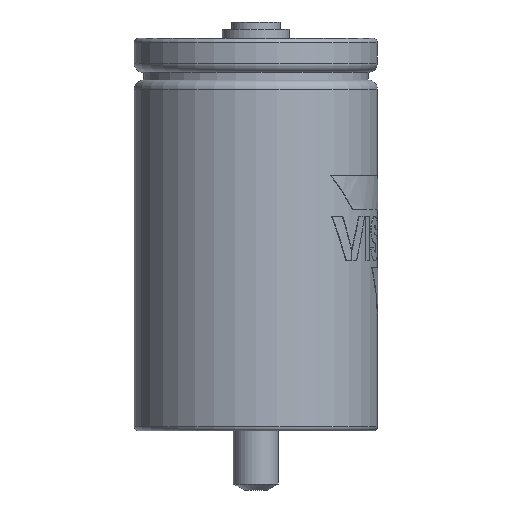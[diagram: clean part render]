
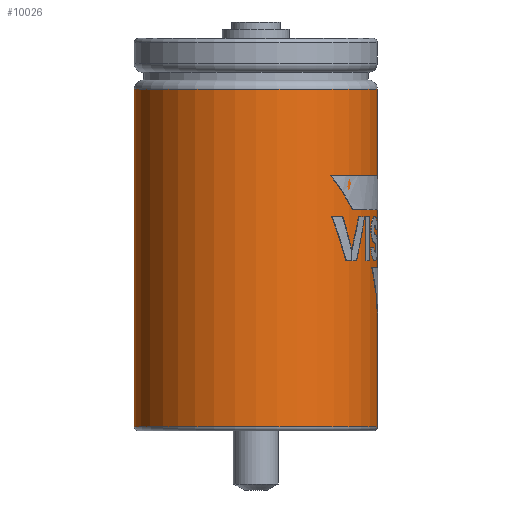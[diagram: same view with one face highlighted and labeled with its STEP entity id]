
A CAD part, left-side view. The second image highlights one B-rep face of the part: STEP entity #10026.
In plain terms, the highlighted cylindrical face has radius 32.5 mm (diameter 65 mm), a full revolution.
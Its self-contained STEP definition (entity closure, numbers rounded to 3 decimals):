
#9959 = TOROIDAL_SURFACE('',#9960,31.4,1.1);
#9960 = AXIS2_PLACEMENT_3D('',#9961,#9962,#9963);
#9961 = CARTESIAN_POINT('',(0.,0.,-102.6));
#9962 = DIRECTION('',(0.,0.,1.));
#9963 = DIRECTION('',(1.,0.,0.));
#9976 = VERTEX_POINT('',#9977);
#9977 = CARTESIAN_POINT('',(32.5,0.,-102.6));
#9999 = EDGE_CURVE('',#9976,#9976,#10000,.T.);
#10000 = SURFACE_CURVE('',#10001,(#10006,#10013),.PCURVE_S1.);
#10001 = CIRCLE('',#10002,32.5);
#10002 = AXIS2_PLACEMENT_3D('',#10003,#10004,#10005);
#10003 = CARTESIAN_POINT('',(0.,0.,-102.6));
#10004 = DIRECTION('',(0.,-0.,1.));
#10005 = DIRECTION('',(1.,0.,0.));
#10006 = PCURVE('',#9959,#10007);
#10007 = DEFINITIONAL_REPRESENTATION('',(#10008),#10012);
#10008 = LINE('',#10009,#10010);
#10009 = CARTESIAN_POINT('',(0.,6.283));
#10010 = VECTOR('',#10011,1.);
#10011 = DIRECTION('',(1.,0.));
#10012 = ( GEOMETRIC_REPRESENTATION_CONTEXT(2) 
PARAMETRIC_REPRESENTATION_CONTEXT() REPRESENTATION_CONTEXT('2D SPACE',''
  ) );
#10013 = PCURVE('',#10014,#10019);
#10014 = CYLINDRICAL_SURFACE('',#10015,32.5);
#10015 = AXIS2_PLACEMENT_3D('',#10016,#10017,#10018);
#10016 = CARTESIAN_POINT('',(0.,0.,-102.6));
#10017 = DIRECTION('',(0.,0.,1.));
#10018 = DIRECTION('',(1.,0.,0.));
#10019 = DEFINITIONAL_REPRESENTATION('',(#10020),#10024);
#10020 = LINE('',#10021,#10022);
#10021 = CARTESIAN_POINT('',(0.,0.));
#10022 = VECTOR('',#10023,1.);
#10023 = DIRECTION('',(1.,0.));
#10024 = ( GEOMETRIC_REPRESENTATION_CONTEXT(2) 
PARAMETRIC_REPRESENTATION_CONTEXT() REPRESENTATION_CONTEXT('2D SPACE',''
  ) );
#10026 = ADVANCED_FACE('',(#10027),#10014,.T.);
#10027 = FACE_BOUND('',#10028,.T.);
#10028 = EDGE_LOOP('',(#10029,#10030,#10053,#10080));
#10029 = ORIENTED_EDGE('',*,*,#9999,.T.);
#10030 = ORIENTED_EDGE('',*,*,#10031,.T.);
#10031 = EDGE_CURVE('',#9976,#10032,#10034,.T.);
#10032 = VERTEX_POINT('',#10033);
#10033 = CARTESIAN_POINT('',(32.5,0.,-12.5));
#10034 = SEAM_CURVE('',#10035,(#10039,#10046),.PCURVE_S1.);
#10035 = LINE('',#10036,#10037);
#10036 = CARTESIAN_POINT('',(32.5,0.,-102.6));
#10037 = VECTOR('',#10038,1.);
#10038 = DIRECTION('',(0.,0.,1.));
#10039 = PCURVE('',#10014,#10040);
#10040 = DEFINITIONAL_REPRESENTATION('',(#10041),#10045);
#10041 = LINE('',#10042,#10043);
#10042 = CARTESIAN_POINT('',(0.,0.));
#10043 = VECTOR('',#10044,1.);
#10044 = DIRECTION('',(0.,1.));
#10045 = ( GEOMETRIC_REPRESENTATION_CONTEXT(2) 
PARAMETRIC_REPRESENTATION_CONTEXT() REPRESENTATION_CONTEXT('2D SPACE',''
  ) );
#10046 = PCURVE('',#10014,#10047);
#10047 = DEFINITIONAL_REPRESENTATION('',(#10048),#10052);
#10048 = LINE('',#10049,#10050);
#10049 = CARTESIAN_POINT('',(6.283,0.));
#10050 = VECTOR('',#10051,1.);
#10051 = DIRECTION('',(0.,1.));
#10052 = ( GEOMETRIC_REPRESENTATION_CONTEXT(2) 
PARAMETRIC_REPRESENTATION_CONTEXT() REPRESENTATION_CONTEXT('2D SPACE',''
  ) );
#10053 = ORIENTED_EDGE('',*,*,#10054,.F.);
#10054 = EDGE_CURVE('',#10032,#10032,#10055,.T.);
#10055 = SURFACE_CURVE('',#10056,(#10061,#10068),.PCURVE_S1.);
#10056 = CIRCLE('',#10057,32.5);
#10057 = AXIS2_PLACEMENT_3D('',#10058,#10059,#10060);
#10058 = CARTESIAN_POINT('',(0.,0.,-12.5));
#10059 = DIRECTION('',(0.,-0.,1.));
#10060 = DIRECTION('',(1.,0.,0.));
#10061 = PCURVE('',#10014,#10062);
#10062 = DEFINITIONAL_REPRESENTATION('',(#10063),#10067);
#10063 = LINE('',#10064,#10065);
#10064 = CARTESIAN_POINT('',(0.,90.1));
#10065 = VECTOR('',#10066,1.);
#10066 = DIRECTION('',(1.,0.));
#10067 = ( GEOMETRIC_REPRESENTATION_CONTEXT(2) 
PARAMETRIC_REPRESENTATION_CONTEXT() REPRESENTATION_CONTEXT('2D SPACE',''
  ) );
#10068 = PCURVE('',#10069,#10074);
#10069 = TOROIDAL_SURFACE('',#10070,30.,2.5);
#10070 = AXIS2_PLACEMENT_3D('',#10071,#10072,#10073);
#10071 = CARTESIAN_POINT('',(0.,0.,-12.5));
#10072 = DIRECTION('',(0.,0.,1.));
#10073 = DIRECTION('',(1.,0.,0.));
#10074 = DEFINITIONAL_REPRESENTATION('',(#10075),#10079);
#10075 = LINE('',#10076,#10077);
#10076 = CARTESIAN_POINT('',(0.,0.));
#10077 = VECTOR('',#10078,1.);
#10078 = DIRECTION('',(1.,0.));
#10079 = ( GEOMETRIC_REPRESENTATION_CONTEXT(2) 
PARAMETRIC_REPRESENTATION_CONTEXT() REPRESENTATION_CONTEXT('2D SPACE',''
  ) );
#10080 = ORIENTED_EDGE('',*,*,#10031,.F.);
